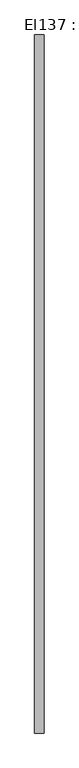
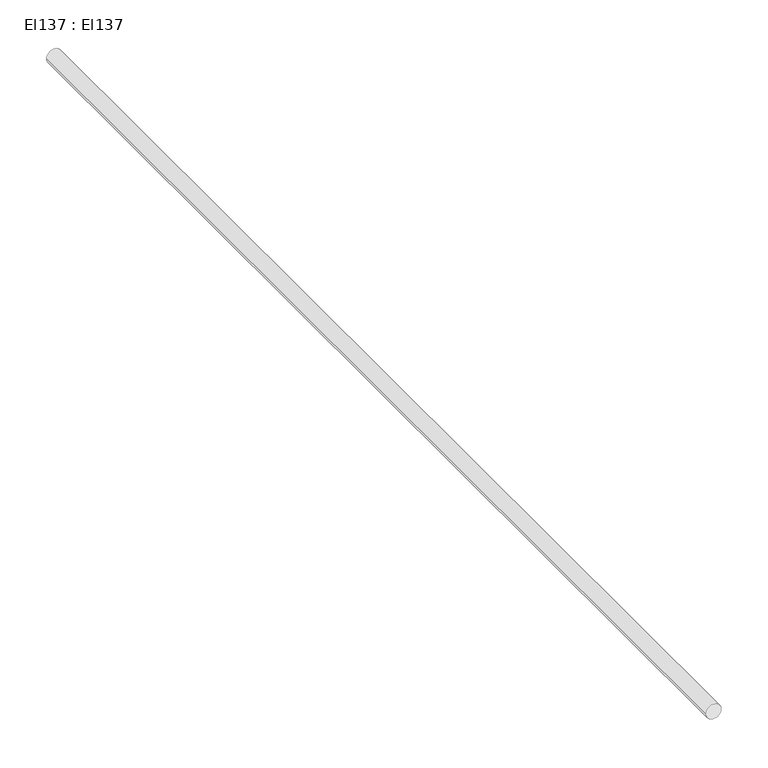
"""IFC4 building model written with IfcOpenShell, lengths in millimetres: cable carrier segment geometry, El137 : El137."""

from ifc_helpers import new_model, si_unit, point, frame, frame_2d, origin, place, context, project, spatial, circle_curve, trimmed, segment, composite_curve, outline, extrude, source, transform, mapped, element, save


def el137_el137_2f90c3b0(model_context):
    return source(origin(), model_context, "Body", "SweptSolid", [
        extrude(outline(composite_curve([segment(trimmed(circle_curve(frame_2d((2950.0, 24980.0)), 9.5), [point((2950.0, 24970.5))], [point((2950.0, 24989.5))], False, "CARTESIAN"), True, "CONTINUOUS"), segment(trimmed(circle_curve(frame_2d((2950.0, 24980.0)), 9.5), [point((2950.0, 24989.5))], [point((2950.0, 24970.5))], False, "CARTESIAN"), True, "CONTINUOUS")], self_intersect=False)), frame((0.0, 9479.549, 0.0), z_axis=(0.0, 1.0, 0.0), x_axis=(0.0, 0.0, 1.0)), (0.0, 0.0, 1.0), 1416.7),
    ])


if __name__ == "__main__":
    model = new_model("IFC4")
    model_context = context("Model", 3, world=origin())
    ifc_project = project(units=[si_unit("LENGTHUNIT", "METRE", prefix="MILLI")], contexts=[model_context])
    site = spatial("IfcSite", under=ifc_project)
    building = spatial("IfcBuilding", under=site)
    placement = place(None, origin())
    el137_el137_shape = el137_el137_2f90c3b0(model_context)
    element("IfcCableCarrierSegment", 1, ObjectType="El137 : El137", at=placement, inside=building, context=model_context, shape_type="MappedRepresentation", body=[
        mapped(el137_el137_shape, transform((0.0, 0.0, 0.0), x_axis=(1.0, 0.0, 0.0), y_axis=(0.0, 1.0, 0.0), z_axis=(0.0, 0.0, 1.0))),
    ])
    save(model, "model.ifc")
